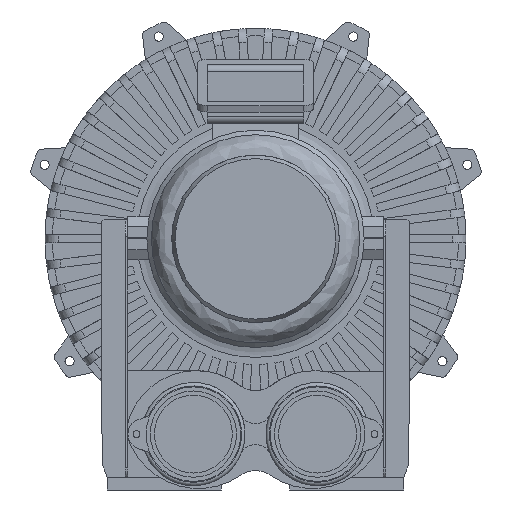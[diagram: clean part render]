
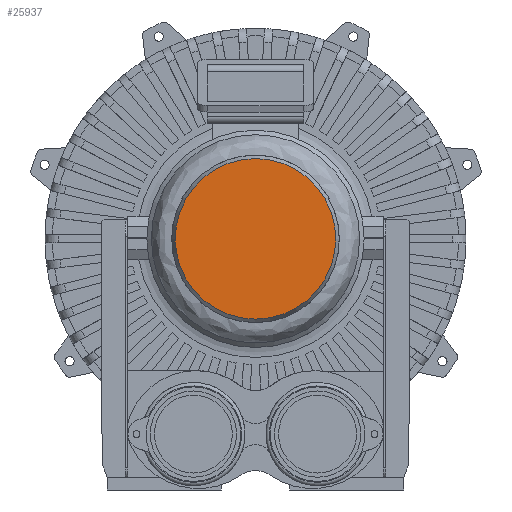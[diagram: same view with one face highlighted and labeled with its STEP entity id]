
A CAD part, front view. The second image highlights one B-rep face of the part: STEP entity #25937.
In plain terms, the highlighted planar face has unit normal (0, -1, 0).
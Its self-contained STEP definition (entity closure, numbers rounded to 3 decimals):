
#1140=CIRCLE('',#28051,116.331);
#4257=ORIENTED_EDGE('',*,*,#11915,.T.);
#11915=EDGE_CURVE('',#15599,#15599,#1140,.T.);
#15599=VERTEX_POINT('',#41507);
#22059=EDGE_LOOP('',(#4257));
#23579=FACE_BOUND('',#22059,.T.);
#24929=PLANE('',#28053);
#25937=ADVANCED_FACE('',(#23579),#24929,.F.);
#28051=AXIS2_PLACEMENT_3D('',#41506,#32900,#32901);
#28053=AXIS2_PLACEMENT_3D('',#41510,#32904,#32905);
#32900=DIRECTION('',(0.,-1.,0.));
#32901=DIRECTION('',(0.,0.,-1.));
#32904=DIRECTION('',(0.,1.,0.));
#32905=DIRECTION('',(0.,0.,1.));
#41506=CARTESIAN_POINT('',(0.,-527.194,-0.788));
#41507=CARTESIAN_POINT('',(0.,-527.194,-117.118));
#41510=CARTESIAN_POINT('',(0.,-527.194,115.543));
